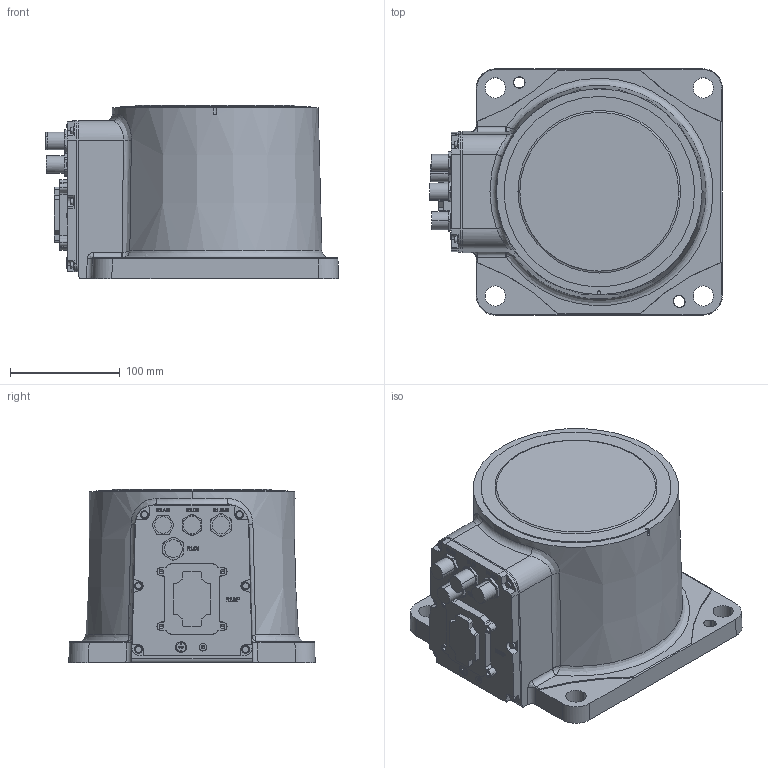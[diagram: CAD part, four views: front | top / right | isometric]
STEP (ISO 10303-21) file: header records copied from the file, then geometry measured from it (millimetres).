
FILE_DESCRIPTION (( 'STEP AP214' ), '1' );
FILE_NAME ('CRB1920_30kg-1350_OmniCore_rev00_Link0.step', '2026-03-06T03:42:58', ( '' ), ( '' ), 'SwSTEP 2.0', 'SolidWorks 2022', '' );
FILE_SCHEMA (( 'AUTOMOTIVE_DESIGN' ));
Length unit declared in the file: millimetre
Products named in the file (1): CRB1920_30kg-1350_OmniCore_rev00_Link0
Bounding box: 267.47 x 224.95 x 158 mm (x, y, z)
Volume: 5577805.9 mm3; surface area: 224069.2 mm2
Topology: 1 solids, 1 shells, 716 faces, 1879 edges, 1230 vertices
Faces by surface type: plane 368, bspline 157, cylinder 114, cone 74, torus 3
Entity records: 30887 total; most frequent: CARTESIAN_POINT 14525, ORIENTED_EDGE 3738, DIRECTION 2758, EDGE_CURVE 1869, VERTEX_POINT 1230, VECTOR 998, LINE 998, AXIS2_PLACEMENT_3D 880
